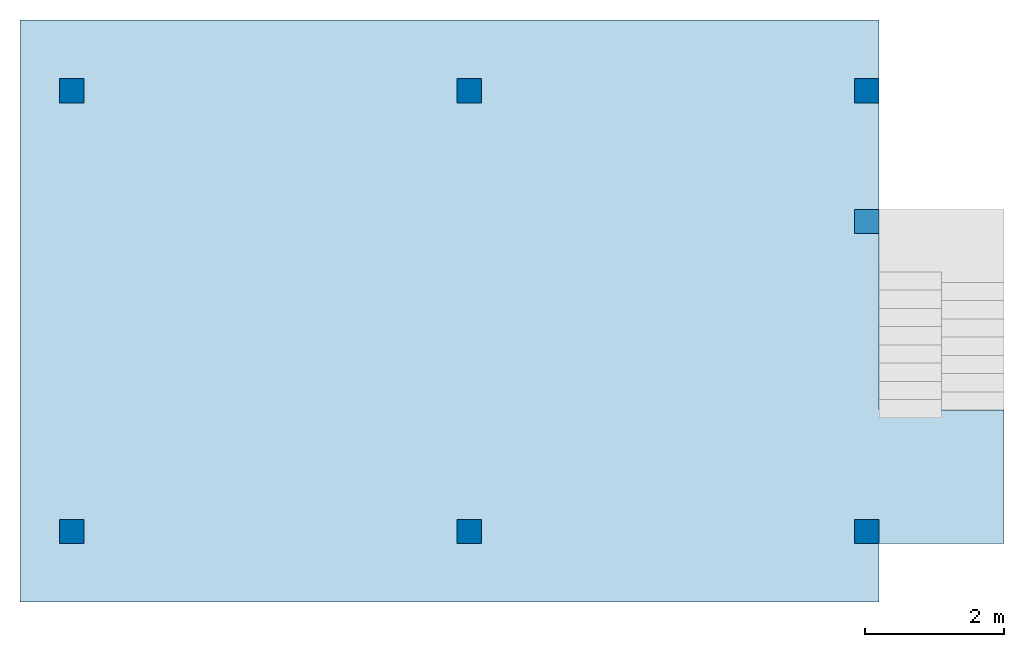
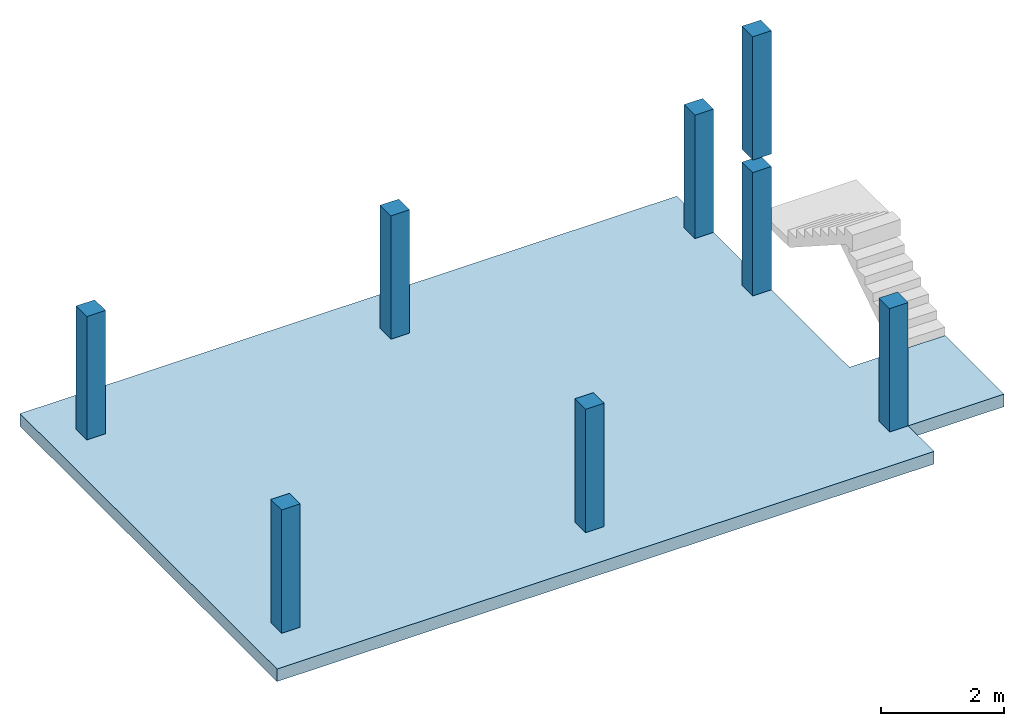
# One storey, part 1 of 2: 8 columns, 1 slab.
"""IFC2X3 building model written with IfcOpenShell, lengths in metres."""

from ifc_helpers import new_model, entity, si_unit, converted_unit, money_unit, direction, frame, origin_with_axes, origin_2d_with_axis, place, context, subcontext, project, spatial, polyline, rectangle, outline, extrude, material, layer, layer_set, layer_usage, type_object, element, save


model = new_model("IFC2X3")

# Units and contexts
model_context = context("Model", 3, precision=1e-05, world=origin_with_axes(), true_north=direction((0.0, 1.0)))
body_context = subcontext(model_context, "Body", "Model", "MODEL_VIEW")
ifc_project = project(units=[si_unit("LENGTHUNIT", "METRE"), si_unit("AREAUNIT", "SQUARE_METRE"), si_unit("VOLUMEUNIT", "CUBIC_METRE"), converted_unit("PLANEANGLEUNIT", "DEGREE", entity("IfcPlaneAngleMeasure", 0.0174532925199), si_unit("PLANEANGLEUNIT", "RADIAN"), dimensions=[0, 0, 0, 0, 0, 0, 0]), si_unit("SOLIDANGLEUNIT", "STERADIAN"), money_unit("EUR"), converted_unit("TIMEUNIT", "Year", entity("IfcTimeMeasure", 31556926.0), si_unit("TIMEUNIT", "SECOND"), dimensions=[0, 0, 0, 0, 0, 0, 0]), si_unit("MASSUNIT", "GRAM"), si_unit("THERMODYNAMICTEMPERATUREUNIT", "DEGREE_CELSIUS"), si_unit("LUMINOUSINTENSITYUNIT", "LUMEN")], contexts=[model_context])

# Site, building, storey
site_placement = place(None, origin_with_axes())
site = spatial("IfcSite", under=ifc_project, at=site_placement, Name="Site", CompositionType="ELEMENT")
building_placement = place(site_placement, origin_with_axes())
building = spatial("IfcBuilding", under=site, at=building_placement, Name="Bâtiment", CompositionType="ELEMENT")
storey_placement = place(building_placement, origin_with_axes())
storey = spatial("IfcBuildingStorey", under=building, at=storey_placement, Name="RdC", CompositionType="ELEMENT", Elevation=0.0)

# Columns
ifc_material = material(Name="GENERIQUE - STRUCTURE")
column_type = type_object("IfcColumnType", Name="GENERIQUE - STRUCTURE 350 x 350", PredefinedType="NOTDEFINED")
for number, where, z_axis, x_axis in (
    (1, (10.2910297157, 10.5620559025, 0.0), (0.0, 0.0, 1.0), (1.0, 0.0, 0.0)),
    (2, (21.7210297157, 10.5620559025, 0.0), (0.0, 0.0, 1.0), (1.0, 0.0, 0.0)),
    (3, (16.0060297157, 10.5620559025, 0.0), (0.0, 0.0, 1.0), (1.0, 0.0, 0.0)),
    (4, (16.0060297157, 16.9020559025, 0.0), (0.0, 0.0, 1.0), (1.0, 0.0, 0.0)),
    (5, (10.2910297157, 16.9020559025, 0.0), (0.0, 0.0, 1.0), (1.0, 0.0, 0.0)),
    (6, (21.7210297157, 16.9020559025, 0.0), (0.0, 0.0, 1.0), (1.0, 0.0, 0.0)),
    (7, (21.7210297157, 15.0195559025, 0.0), (0.0, 0.0, 1.0), (1.0, 0.0, 0.0)),
    (8, (21.7210297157, 15.0195559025, 2.7), (0.0, 0.0, 1.0), (1.0, 0.0, 0.0)),
):
    element("IfcColumn", number, at=place(storey_placement, frame(where, z_axis=z_axis, x_axis=x_axis)), inside=storey, type_object=column_type, material=ifc_material, Name="PotB-001", ObjectType="GENERIQUE - STRUCTURE 350 x 350", context=body_context, shape_type="SweptSolid", body=[
        extrude(rectangle(XDim=0.35, YDim=0.35, at=origin_2d_with_axis()), origin_with_axes(), (0.0, 0.0, 1.0), 2.45),
    ])

# Slab
ifc_layer = layer(ifc_material, 0.25, ventilated="UNKNOWN")
ifc_layer_set = layer_set([ifc_layer], Name="GENERIQUE - STRUCTURE 0.25")
ifc_layer_usage = layer_usage(ifc_layer_set, "AXIS3", "NEGATIVE", 0.25)
slab_type = type_object("IfcSlabType", Name="GENERIQUE - STRUCTURE 250", PredefinedType="FLOOR")
slab_placement = place(storey_placement, frame((9.54602971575, 9.54705590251, 0.0), z_axis=(0.0, 0.0, 1.0), x_axis=(1.0, 0.0, 0.0)))
element("IfcSlab", 9, at=slab_placement, inside=storey, type_object=slab_type, material=ifc_layer_usage, Name="DC_BA_Isol-002", PredefinedType="FLOOR", context=body_context, shape_type="SweptSolid", body=[
    extrude(outline(polyline([(0.0, 0.0), (12.35, 0.0), (12.35, 0.84), (14.15, 0.84), (14.15, 2.76), (12.35, 2.76), (12.35, 8.37), (0.0, 8.37), (0.0, 0.0)])), frame((0.0, 0.0, -0.25), z_axis=(0.0, 0.0, 1.0), x_axis=(1.0, 0.0, 0.0)), (0.0, 0.0, 1.0), 0.25),
])

save(model, "model.ifc")
